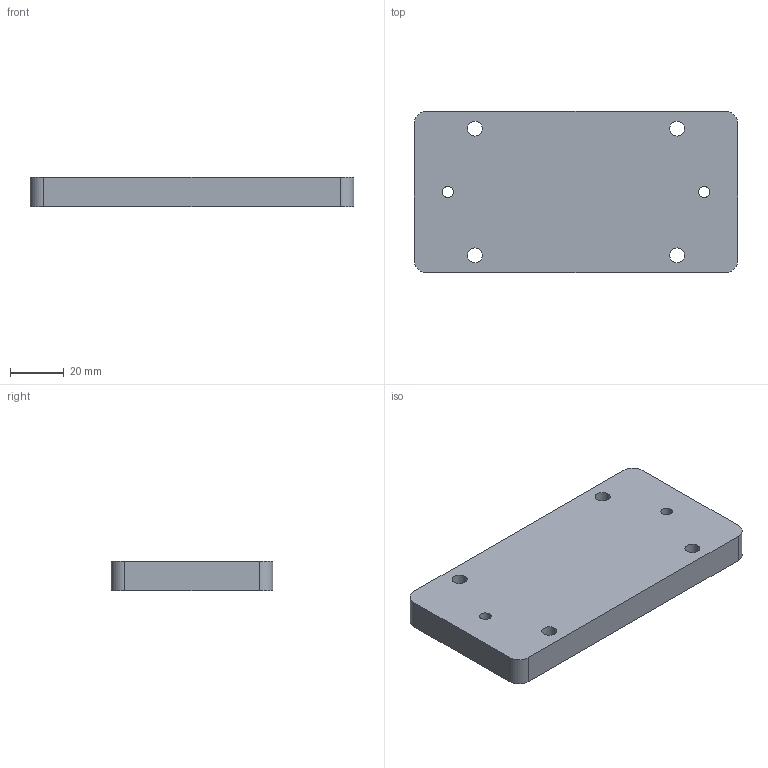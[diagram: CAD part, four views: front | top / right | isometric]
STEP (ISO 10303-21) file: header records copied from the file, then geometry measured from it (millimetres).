
FILE_DESCRIPTION(('CATIA V5 STEP Exchange'),'2;1');
FILE_NAME('D:\姚明阳\AGZ015\AGZ015.07_V1.stp','2022-02-07T06:31:27+00:00',('none'),('none'),'CATIA Version 5 Release 21 GA (IN-10)','CATIA V5 STEP AP214','none');
FILE_SCHEMA(('AUTOMOTIVE_DESIGN { 1 0 10303 214 1 1 1 1 }'));
Length unit declared in the file: millimetre
Products named in the file (1): AGZ015.07_V1
Bounding box: 120 x 60 x 11 mm (x, y, z)
Volume: 77613.8 mm3; surface area: 19027.7 mm2
Topology: 1 solids, 1 shells, 22 faces, 60 edges, 40 vertices
Faces by surface type: cylinder 16, plane 6
Entity records: 700 total; most frequent: ORIENTED_EDGE 120, CARTESIAN_POINT 117, DIRECTION 92, EDGE_CURVE 60, AXIS2_PLACEMENT_3D 49, VERTEX_POINT 40, EDGE_LOOP 34, CIRCLE 32
